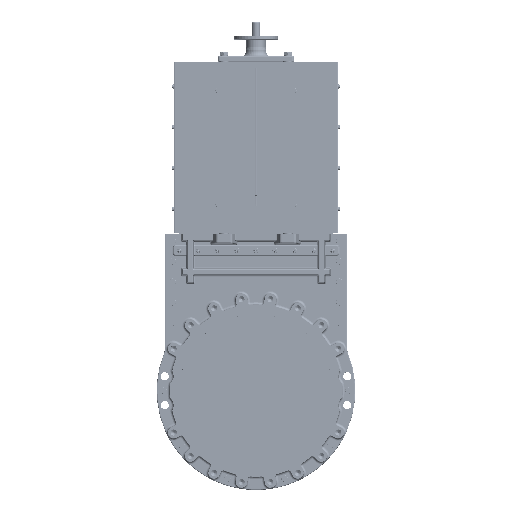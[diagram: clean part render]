
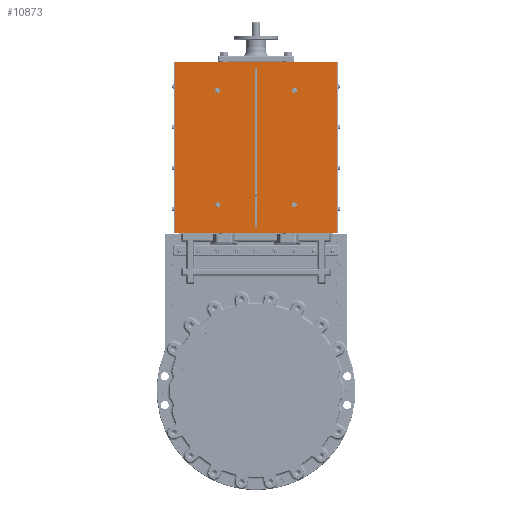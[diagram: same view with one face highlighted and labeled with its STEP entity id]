
A CAD part, top view. The second image highlights one B-rep face of the part: STEP entity #10873.
In plain terms, the highlighted planar face has unit normal (0, 0, 1).
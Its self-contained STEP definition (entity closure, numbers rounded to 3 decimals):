
#10873=ADVANCED_FACE('',(#17994,#17995,#17996,#17997,#17998,#17999),#12978,
 .F.);
#12978=PLANE('',#65509);
#15546=CIRCLE('',#65448,10.);
#15547=CIRCLE('',#65450,10.);
#15548=CIRCLE('',#65452,10.);
#15549=CIRCLE('',#65454,10.);
#15576=CIRCLE('',#65507,5.);
#15577=CIRCLE('',#65508,5.);
#17994=FACE_BOUND('',#23063,.T.);
#17995=FACE_BOUND('',#23064,.T.);
#17996=FACE_BOUND('',#23065,.T.);
#17997=FACE_BOUND('',#23066,.T.);
#17998=FACE_BOUND('',#23067,.T.);
#17999=FACE_BOUND('',#23068,.T.);
#23063=EDGE_LOOP('',(#37703,#37704,#37705,#37706));
#23064=EDGE_LOOP('',(#37707,#37708,#37709,#37710));
#23065=EDGE_LOOP('',(#37711));
#23066=EDGE_LOOP('',(#37712));
#23067=EDGE_LOOP('',(#37713));
#23068=EDGE_LOOP('',(#37714));
#37703=ORIENTED_EDGE('',*,*,#52665,.F.);
#37704=ORIENTED_EDGE('',*,*,#52666,.T.);
#37705=ORIENTED_EDGE('',*,*,#52667,.T.);
#37706=ORIENTED_EDGE('',*,*,#52663,.T.);
#37707=ORIENTED_EDGE('',*,*,#52668,.T.);
#37708=ORIENTED_EDGE('',*,*,#52669,.T.);
#37709=ORIENTED_EDGE('',*,*,#52670,.T.);
#37710=ORIENTED_EDGE('',*,*,#52671,.F.);
#37711=ORIENTED_EDGE('',*,*,#52620,.T.);
#37712=ORIENTED_EDGE('',*,*,#52619,.F.);
#37713=ORIENTED_EDGE('',*,*,#52618,.F.);
#37714=ORIENTED_EDGE('',*,*,#52617,.T.);
#44916=VERTEX_POINT('',#109569);
#44917=VERTEX_POINT('',#109572);
#44918=VERTEX_POINT('',#109575);
#44919=VERTEX_POINT('',#109578);
#44954=VERTEX_POINT('',#109680);
#44955=VERTEX_POINT('',#109682);
#44956=VERTEX_POINT('',#109686);
#44957=VERTEX_POINT('',#109688);
#44958=VERTEX_POINT('',#109691);
#44959=VERTEX_POINT('',#109692);
#44960=VERTEX_POINT('',#109694);
#44961=VERTEX_POINT('',#109696);
#52617=EDGE_CURVE('',#44916,#44916,#15546,.T.);
#52618=EDGE_CURVE('',#44917,#44917,#15547,.T.);
#52619=EDGE_CURVE('',#44918,#44918,#15548,.T.);
#52620=EDGE_CURVE('',#44919,#44919,#15549,.T.);
#52663=EDGE_CURVE('',#44955,#44954,#56564,.T.);
#52665=EDGE_CURVE('',#44956,#44954,#56565,.T.);
#52666=EDGE_CURVE('',#44956,#44957,#56566,.T.);
#52667=EDGE_CURVE('',#44957,#44955,#56567,.T.);
#52668=EDGE_CURVE('',#44958,#44959,#15576,.T.);
#52669=EDGE_CURVE('',#44959,#44960,#56568,.T.);
#52670=EDGE_CURVE('',#44960,#44961,#15577,.T.);
#52671=EDGE_CURVE('',#44958,#44961,#56569,.T.);
#56564=LINE('',#109681,#59833);
#56565=LINE('',#109685,#59834);
#56566=LINE('',#109687,#59835);
#56567=LINE('',#109689,#59836);
#56568=LINE('',#109693,#59837);
#56569=LINE('',#109697,#59838);
#59833=VECTOR('',#79903,1.);
#59834=VECTOR('',#79908,1.);
#59835=VECTOR('',#79909,1.);
#59836=VECTOR('',#79910,1.);
#59837=VECTOR('',#79913,1.);
#59838=VECTOR('',#79916,1.);
#65448=AXIS2_PLACEMENT_3D('',#109568,#79772,#79773);
#65450=AXIS2_PLACEMENT_3D('',#109571,#79776,#79777);
#65452=AXIS2_PLACEMENT_3D('',#109574,#79780,#79781);
#65454=AXIS2_PLACEMENT_3D('',#109577,#79784,#79785);
#65507=AXIS2_PLACEMENT_3D('',#109690,#79911,#79912);
#65508=AXIS2_PLACEMENT_3D('',#109695,#79914,#79915);
#65509=AXIS2_PLACEMENT_3D('',#109698,#79917,#79918);
#79772=DIRECTION('',(0.,0.,-1.));
#79773=DIRECTION('',(-1.,0.,0.));
#79776=DIRECTION('',(0.,0.,1.));
#79777=DIRECTION('',(1.,0.,0.));
#79780=DIRECTION('',(0.,0.,1.));
#79781=DIRECTION('',(1.,0.,0.));
#79784=DIRECTION('',(0.,0.,-1.));
#79785=DIRECTION('',(-1.,0.,0.));
#79903=DIRECTION('',(0.,1.,0.));
#79908=DIRECTION('',(1.,0.,0.));
#79909=DIRECTION('',(0.,-1.,0.));
#79910=DIRECTION('',(1.,0.,0.));
#79911=DIRECTION('',(0.,0.,-1.));
#79912=DIRECTION('',(-1.,0.,0.));
#79913=DIRECTION('',(0.,-1.,0.));
#79914=DIRECTION('',(0.,0.,-1.));
#79915=DIRECTION('',(-1.,0.,0.));
#79916=DIRECTION('',(0.,-1.,0.));
#79917=DIRECTION('',(0.,0.,-1.));
#79918=DIRECTION('',(-1.,0.,0.));
#109568=CARTESIAN_POINT('',(-149.,990.281,101.792));
#109569=CARTESIAN_POINT('',(-159.,990.281,101.792));
#109571=CARTESIAN_POINT('',(151.,990.281,101.792));
#109572=CARTESIAN_POINT('',(161.,990.281,101.792));
#109574=CARTESIAN_POINT('',(151.,542.281,101.792));
#109575=CARTESIAN_POINT('',(161.,542.281,101.792));
#109577=CARTESIAN_POINT('',(-149.,542.281,101.792));
#109578=CARTESIAN_POINT('',(-159.,542.281,101.792));
#109680=CARTESIAN_POINT('',(319.5,1100.281,101.792));
#109681=CARTESIAN_POINT('',(319.5,1095.281,101.792));
#109682=CARTESIAN_POINT('',(319.5,432.281,101.792));
#109685=CARTESIAN_POINT('',(-196.5,1100.281,101.792));
#109686=CARTESIAN_POINT('',(-317.5,1100.281,101.792));
#109687=CARTESIAN_POINT('',(-317.5,687.281,101.792));
#109688=CARTESIAN_POINT('',(-317.5,432.281,101.792));
#109689=CARTESIAN_POINT('',(-196.5,432.281,101.792));
#109690=CARTESIAN_POINT('',(1.,1073.781,101.792));
#109691=CARTESIAN_POINT('',(-4.,1073.781,101.792));
#109692=CARTESIAN_POINT('',(6.,1073.781,101.792));
#109693=CARTESIAN_POINT('',(6.,1095.281,101.792));
#109694=CARTESIAN_POINT('',(6.,458.781,101.792));
#109695=CARTESIAN_POINT('',(1.,458.781,101.792));
#109696=CARTESIAN_POINT('',(-4.,458.781,101.792));
#109697=CARTESIAN_POINT('',(-4.,1095.281,101.792));
#109698=CARTESIAN_POINT('',(-196.5,1095.281,101.792));
